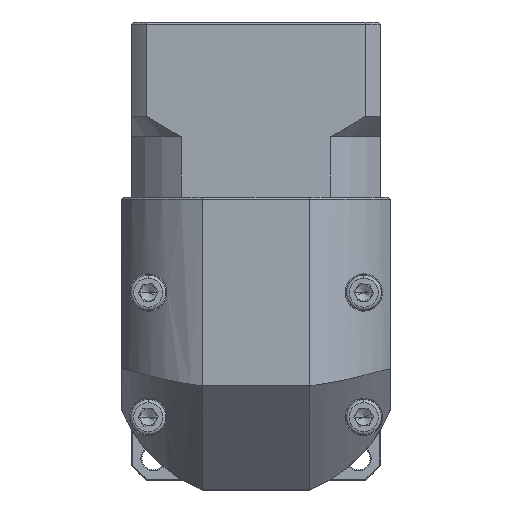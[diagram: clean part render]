
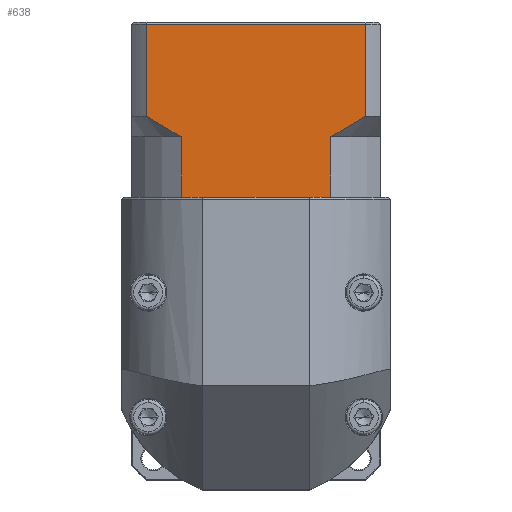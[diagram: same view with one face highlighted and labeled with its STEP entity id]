
A CAD part, top view. The second image highlights one B-rep face of the part: STEP entity #638.
In plain terms, the highlighted planar face has unit normal (0, 0, 1).
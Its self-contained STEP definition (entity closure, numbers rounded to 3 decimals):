
#36 = LINE ( 'NONE', #78713, #40849 ) ;
#638 = ADVANCED_FACE ( 'NONE', ( #18050 ), #64218, .F. ) ;
#2788 = CARTESIAN_POINT ( 'NONE',  ( -93.198, 63.315, 82.485 ) ) ;
#5822 = CARTESIAN_POINT ( 'NONE',  ( -45.83, 88.964, 82.485 ) ) ;
#7709 = EDGE_LOOP ( 'NONE', ( #17621, #10442, #48805, #61402, #76918, #110148, #66203, #35483, #32283, #68962 ) ) ;
#10442 = ORIENTED_EDGE ( 'NONE', *, *, #54100, .T. ) ;
#11372 = VERTEX_POINT ( 'NONE', #21969 ) ;
#11473 = LINE ( 'NONE', #88915, #92838 ) ;
#14430 = VERTEX_POINT ( 'NONE', #68886 ) ;
#14530 = DIRECTION ( 'NONE',  ( 0., 0., -1. ) ) ;
#17621 = ORIENTED_EDGE ( 'NONE', *, *, #80689, .F. ) ;
#17653 = CARTESIAN_POINT ( 'NONE',  ( -54.259, 61.764, 82.485 ) ) ;
#18050 = FACE_OUTER_BOUND ( 'NONE', #7709, .T. ) ;
#18270 = VERTEX_POINT ( 'NONE', #88303 ) ;
#20568 = CARTESIAN_POINT ( 'NONE',  ( -102.287, 88.964, 82.485 ) ) ;
#21969 = CARTESIAN_POINT ( 'NONE',  ( -54.259, 61.764, 82.485 ) ) ;
#22322 = EDGE_CURVE ( 'NONE', #69335, #90857, #11473, .T. ) ;
#22539 = DIRECTION ( 'NONE',  ( 0., 1., 0. ) ) ;
#24110 = CARTESIAN_POINT ( 'NONE',  ( -51.377, 63.314, 82.485 ) ) ;
#25547 = VERTEX_POINT ( 'NONE', #91631 ) ;
#25835 = LINE ( 'NONE', #65194, #97705 ) ;
#26946 = EDGE_CURVE ( 'NONE', #52863, #53014, #36, .T. ) ;
#29497 = VECTOR ( 'NONE', #74023, 1000. ) ;
#30608 = CARTESIAN_POINT ( 'NONE',  ( -45.83, 66.764, 82.485 ) ) ;
#32218 = CARTESIAN_POINT ( 'NONE',  ( -98.745, 66.764, 82.485 ) ) ;
#32283 = ORIENTED_EDGE ( 'NONE', *, *, #87824, .F. ) ;
#35483 = ORIENTED_EDGE ( 'NONE', *, *, #22322, .T. ) ;
#36333 = DIRECTION ( 'NONE',  ( 0., 1., 0. ) ) ;
#38403 = LINE ( 'NONE', #72551, #103451 ) ;
#40849 = VECTOR ( 'NONE', #36333, 1000. ) ;
#42339 = CARTESIAN_POINT ( 'NONE',  ( -47.192, 65.862, 82.485 ) ) ;
#44389 = LINE ( 'NONE', #20568, #29497 ) ;
#45063 = CARTESIAN_POINT ( 'NONE',  ( -54.259, 47.264, 82.485 ) ) ;
#46539 = DIRECTION ( 'NONE',  ( 0., -1., 0. ) ) ;
#48805 = ORIENTED_EDGE ( 'NONE', *, *, #69853, .F. ) ;
#49902 = CARTESIAN_POINT ( 'NONE',  ( -48.572, 64.988, 82.485 ) ) ;
#50267 = CARTESIAN_POINT ( 'NONE',  ( -52.803, 62.514, 82.485 ) ) ;
#52537 = CARTESIAN_POINT ( 'NONE',  ( -97.385, 65.864, 82.485 ) ) ;
#52863 = VERTEX_POINT ( 'NONE', #87985 ) ;
#53014 = VERTEX_POINT ( 'NONE', #55406 ) ;
#54100 = EDGE_CURVE ( 'NONE', #107807, #25547, #44389, .T. ) ;
#55406 = CARTESIAN_POINT ( 'NONE',  ( -90.315, 61.764, 82.485 ) ) ;
#55462 = DIRECTION ( 'NONE',  ( 0., 1., 0. ) ) ;
#55749 = DIRECTION ( 'NONE',  ( 1., 0., 0. ) ) ;
#56515 = VECTOR ( 'NONE', #46539, 1000. ) ;
#56859 = CARTESIAN_POINT ( 'NONE',  ( -55.25, 47.264, 82.485 ) ) ;
#57701 = LINE ( 'NONE', #63096, #95634 ) ;
#61402 = ORIENTED_EDGE ( 'NONE', *, *, #95595, .T. ) ;
#63096 = CARTESIAN_POINT ( 'NONE',  ( -98.745, 61.764, 82.485 ) ) ;
#63362 = VECTOR ( 'NONE', #70766, 1000. ) ;
#64218 = PLANE ( 'NONE',  #105886 ) ;
#65194 = CARTESIAN_POINT ( 'NONE',  ( -102.287, 47.264, 82.485 ) ) ;
#66203 = ORIENTED_EDGE ( 'NONE', *, *, #96089, .T. ) ;
#68886 = CARTESIAN_POINT ( 'NONE',  ( -89.324, 47.264, 82.485 ) ) ;
#68962 = ORIENTED_EDGE ( 'NONE', *, *, #91104, .T. ) ;
#69335 = VERTEX_POINT ( 'NONE', #56859 ) ;
#69853 = EDGE_CURVE ( 'NONE', #80259, #25547, #57701, .T. ) ;
#70766 = DIRECTION ( 'NONE',  ( 0., -1., 0. ) ) ;
#71838 = CARTESIAN_POINT ( 'NONE',  ( -96.006, 64.991, 82.485 ) ) ;
#72551 = CARTESIAN_POINT ( 'NONE',  ( -102.287, 47.264, 82.485 ) ) ;
#74023 = DIRECTION ( 'NONE',  ( -1., 0., 0. ) ) ;
#74696 = EDGE_CURVE ( 'NONE', #52863, #14430, #38403, .T. ) ;
#75609 = CARTESIAN_POINT ( 'NONE',  ( -102.287, 89.464, 82.485 ) ) ;
#76918 = ORIENTED_EDGE ( 'NONE', *, *, #26946, .F. ) ;
#78713 = CARTESIAN_POINT ( 'NONE',  ( -90.315, 61.764, 82.485 ) ) ;
#80259 = VERTEX_POINT ( 'NONE', #32218 ) ;
#80660 = CARTESIAN_POINT ( 'NONE',  ( -45.83, 61.764, 82.485 ) ) ;
#80689 = EDGE_CURVE ( 'NONE', #107807, #18270, #84962, .T. ) ;
#82473 = CARTESIAN_POINT ( 'NONE',  ( -54.259, 61.764, 82.485 ) ) ;
#84962 = LINE ( 'NONE', #80660, #56515 ) ;
#87824 = EDGE_CURVE ( 'NONE', #11372, #90857, #94544, .T. ) ;
#87985 = CARTESIAN_POINT ( 'NONE',  ( -90.315, 47.264, 82.485 ) ) ;
#88303 = CARTESIAN_POINT ( 'NONE',  ( -45.83, 66.764, 82.485 ) ) ;
#88915 = CARTESIAN_POINT ( 'NONE',  ( -102.287, 47.264, 82.485 ) ) ;
#90397 = DIRECTION ( 'NONE',  ( 1., 0., 0. ) ) ;
#90857 = VERTEX_POINT ( 'NONE', #45063 ) ;
#91104 = EDGE_CURVE ( 'NONE', #11372, #18270, #99431, .T. ) ;
#91631 = CARTESIAN_POINT ( 'NONE',  ( -98.745, 88.964, 82.485 ) ) ;
#92838 = VECTOR ( 'NONE', #90397, 1000. ) ;
#94544 = LINE ( 'NONE', #17653, #63362 ) ;
#95595 = EDGE_CURVE ( 'NONE', #80259, #53014, #100170, .T. ) ;
#95634 = VECTOR ( 'NONE', #55462, 1000. ) ;
#96089 = EDGE_CURVE ( 'NONE', #14430, #69335, #25835, .T. ) ;
#97705 = VECTOR ( 'NONE', #55749, 1000. ) ;
#97902 = DIRECTION ( 'NONE',  ( 1., 0., 0. ) ) ;
#99041 = CARTESIAN_POINT ( 'NONE',  ( -90.315, 61.764, 82.485 ) ) ;
#99431 = B_SPLINE_CURVE_WITH_KNOTS ( 'NONE', 3,
 ( #82473, #50267, #24110, #49902, #42339, #30608 ),
 .UNSPECIFIED., .F., .F.,
 ( 4, 2, 4 ),
 ( 0.1, 0.104, 0.109 ),
 .UNSPECIFIED. ) ;
#100170 = B_SPLINE_CURVE_WITH_KNOTS ( 'NONE', 3,
 ( #104814, #52537, #71838, #2788, #107040, #99041 ),
 .UNSPECIFIED., .F., .F.,
 ( 4, 2, 4 ),
 ( 0.052, 0.057, 0.062 ),
 .UNSPECIFIED. ) ;
#103451 = VECTOR ( 'NONE', #97902, 1000. ) ;
#104814 = CARTESIAN_POINT ( 'NONE',  ( -98.745, 66.764, 82.485 ) ) ;
#105886 = AXIS2_PLACEMENT_3D ( 'NONE', #75609, #14530, #22539 ) ;
#107040 = CARTESIAN_POINT ( 'NONE',  ( -91.767, 62.512, 82.485 ) ) ;
#107807 = VERTEX_POINT ( 'NONE', #5822 ) ;
#110148 = ORIENTED_EDGE ( 'NONE', *, *, #74696, .T. ) ;
